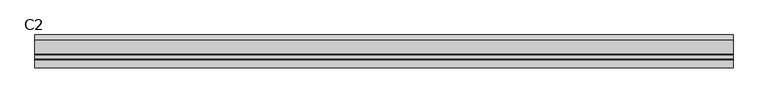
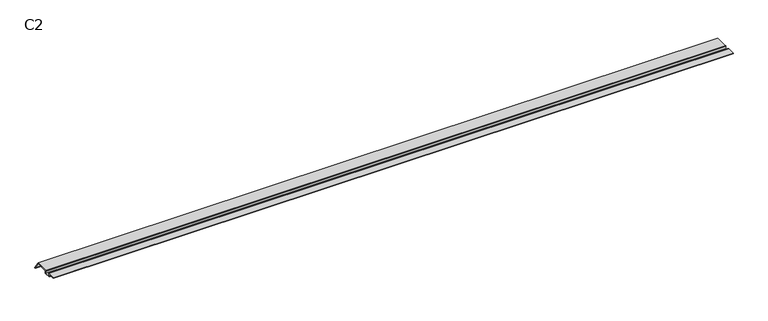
"""IFC4 building model written with IfcOpenShell, lengths in millimetres: proxy geometry, C2 profil cokolowy : C2."""

import ifcopenshell
import ifcopenshell.guid

model = None  # the IFC model being written
_history = None  # IfcOwnerHistory: only IFC2X3 demands one
_inside = {}  # id of a spatial element -> (the spatial element, [elements in it])
_under = {}  # id of a project, library or spatial element -> (it, [spatial elements below it])
_declared = {}  # id of a project -> (the project, [libraries it declares])
_typed = {}  # id of a type object -> (the type object, [elements of that type])
_made_of = {}  # id of a material, layer set ... -> (it, [elements and type objects made of it])


def new_model(schema):
    """Start an empty IFC model of exactly this schema.

    Asked for "IFC4X3", IfcOpenShell would pick the latest addendum, in which some entities
    have other attributes; the version numbers below select the first issue.
    IFC2X3 requires an IfcOwnerHistory on every rooted entity: one is made here for all.
    """
    global model, _history
    if schema == "IFC4X3":
        model = ifcopenshell.file(schema_version=(4, 3, 0, 0))
    else:
        model = ifcopenshell.file(schema=schema)
    _inside.clear()
    _under.clear()
    _declared.clear()
    _typed.clear()
    _made_of.clear()
    _history = None
    if model.schema == "IFC2X3":
        org = make("IfcOrganization", Name="unknown")
        user = make(
            "IfcPersonAndOrganization",
            ThePerson=make("IfcPerson", FamilyName="unknown"),
            TheOrganization=org,
        )
        app = make(
            "IfcApplication",
            ApplicationDeveloper=org,
            Version="unknown",
            ApplicationFullName="unknown",
            ApplicationIdentifier="unknown",
        )
        _history = make(
            "IfcOwnerHistory",
            OwningUser=user,
            OwningApplication=app,
            ChangeAction="ADDED",
            CreationDate=0,
        )
    return model


def make(cls, **values):
    """One entity of the class cls with the attributes given. An attribute that is None is left unset."""
    return model.create_entity(
        cls, **{name: value for name, value in values.items() if value is not None}
    )


def rooted(cls, **values):
    """An entity with a GlobalId (a new one), such as an element, a storey or a relation."""
    return make(cls, GlobalId=ifcopenshell.guid.new(), OwnerHistory=_history, **values)


def si_unit(unit_type, name, prefix=None):
    """IfcSIUnit, for example si_unit("LENGTHUNIT", "METRE", prefix="MILLI")."""
    return make("IfcSIUnit", UnitType=unit_type, Prefix=prefix, Name=name)


def assignment(units):
    """IfcUnitAssignment: the units of a project."""
    return None if units is None else make("IfcUnitAssignment", Units=units)


def point(xyz):
    """IfcCartesianPoint."""
    return None if xyz is None else make("IfcCartesianPoint", Coordinates=xyz)


def direction(xyz):
    """IfcDirection."""
    return None if xyz is None else make("IfcDirection", DirectionRatios=xyz)


def frame(location, z_axis=None, x_axis=None):
    """IfcAxis2Placement3D, a coordinate frame: its origin and axes. An axis left out is left unset."""
    return make(
        "IfcAxis2Placement3D",
        Location=point(location),
        Axis=direction(z_axis),
        RefDirection=direction(x_axis),
    )


def frame_2d(location, x_axis=None):
    """IfcAxis2Placement2D, a coordinate frame in the plane: its origin and x axis."""
    return make(
        "IfcAxis2Placement2D", Location=point(location), RefDirection=direction(x_axis)
    )


def origin():
    """The frame at (0, 0, 0) with its axes left unset."""
    return frame((0.0, 0.0, 0.0))


def place(relative_to, where):
    """IfcLocalPlacement: puts the frame where relative to a parent placement (None: the world)."""
    return make(
        "IfcLocalPlacement", PlacementRelTo=relative_to, RelativePlacement=where
    )


def context(
    kind, dimensions, precision=None, world=None, true_north=None, identifier=None
):
    """IfcGeometricRepresentationContext, for example the 3D "Model" context."""
    return make(
        "IfcGeometricRepresentationContext",
        ContextIdentifier=identifier,
        ContextType=kind,
        CoordinateSpaceDimension=dimensions,
        Precision=precision,
        WorldCoordinateSystem=world,
        TrueNorth=true_north,
    )


def project(units=None, contexts=None):
    """IfcProject with its units and contexts."""
    return rooted(
        "IfcProject",
        Name="project",
        RepresentationContexts=contexts,
        UnitsInContext=assignment(units),
    )


def spatial(cls, under=None, at=None, **own):
    """A site, building, storey or space (cls), placed at a placement, below another one or the project."""
    s = rooted(cls, ObjectPlacement=at, **own)
    if under is not None:
        _under.setdefault(under.id(), (under, []))[1].append(s)
    return s


def polyline(points):
    """IfcPolyline through the points."""
    return make("IfcPolyline", Points=[point(p) for p in points])


def circle_curve(where, radius):
    """IfcCircle in the frame where."""
    return make("IfcCircle", Position=where, Radius=radius)


def trimmed(basis, trim1, trim2, sense, master):
    """IfcTrimmedCurve: the piece of a basis curve between two trims."""
    return make(
        "IfcTrimmedCurve",
        BasisCurve=basis,
        Trim1=trim1,
        Trim2=trim2,
        SenseAgreement=sense,
        MasterRepresentation=master,
    )


def segment(curve, same_sense, transition):
    """IfcCompositeCurveSegment."""
    return make(
        "IfcCompositeCurveSegment",
        Transition=transition,
        SameSense=same_sense,
        ParentCurve=curve,
    )


def composite_curve(segments, self_intersect=None):
    """IfcCompositeCurve: segments joined end to end."""
    return make("IfcCompositeCurve", Segments=segments, SelfIntersect=self_intersect)


def outline(outer, holes=None, kind="AREA"):
    """IfcArbitraryClosedProfileDef: a profile drawn as a closed curve; with holes, ...WithVoids."""
    if holes is None:
        return make("IfcArbitraryClosedProfileDef", ProfileType=kind, OuterCurve=outer)
    return make(
        "IfcArbitraryProfileDefWithVoids",
        ProfileType=kind,
        OuterCurve=outer,
        InnerCurves=holes,
    )


def extrude(swept, where, along, depth):
    """IfcExtrudedAreaSolid: the profile swept, set in the frame where, extruded along a direction by depth."""
    return make(
        "IfcExtrudedAreaSolid",
        SweptArea=swept,
        Position=where,
        ExtrudedDirection=direction(along),
        Depth=depth,
    )


def shape(context_of_items, identifier, shape_type, items):
    """IfcShapeRepresentation: the items that make up one representation, for example the "Body"."""
    return make(
        "IfcShapeRepresentation",
        ContextOfItems=context_of_items,
        RepresentationIdentifier=identifier,
        RepresentationType=shape_type,
        Items=items,
    )


def source(mapping_origin, context_of_items, identifier, shape_type, items):
    """IfcRepresentationMap: a shape defined once, which mapped items show again and again."""
    return make(
        "IfcRepresentationMap",
        MappingOrigin=mapping_origin,
        MappedRepresentation=shape(context_of_items, identifier, shape_type, items),
    )


def transform(
    local_origin,
    x_axis=None,
    y_axis=None,
    z_axis=None,
    scale=None,
    scale2=None,
    scale3=None,
    uniform=True,
):
    """IfcCartesianTransformationOperator3D, or its non-uniform kind. x_axis, y_axis, z_axis: its Axis1, 2, 3."""
    if uniform:
        return make(
            "IfcCartesianTransformationOperator3D",
            Axis1=direction(x_axis),
            Axis2=direction(y_axis),
            LocalOrigin=point(local_origin),
            Scale=scale,
            Axis3=direction(z_axis),
        )
    return make(
        "IfcCartesianTransformationOperator3DnonUniform",
        Axis1=direction(x_axis),
        Axis2=direction(y_axis),
        LocalOrigin=point(local_origin),
        Scale=scale,
        Axis3=direction(z_axis),
        Scale2=scale2,
        Scale3=scale3,
    )


def mapped(mapping_source, mapping_target):
    """IfcMappedItem: shows the shape of a source again, moved by a transform."""
    return make(
        "IfcMappedItem", MappingSource=mapping_source, MappingTarget=mapping_target
    )


def made_of(thing, what):
    """Note that an element or type object is made of a material, layer set ...; save() writes the relation."""
    if what is not None:
        _made_of.setdefault(what.id(), (what, []))[1].append(thing)
    return thing


def element(
    cls,
    number,
    at=None,
    inside=None,
    cuts=None,
    type_object=None,
    material=None,
    context=None,
    identifier="Body",
    shape_type=None,
    held_by="IfcProductDefinitionShape",
    body=None,
    shapes=None,
    **own,
):
    """One element of the class cls, such as IfcWall. Its Tag is "e" and its number.

    at: its placement. inside: the storey or other place that contains it. cuts: it is an
    opening in that element (IfcRelVoidsElement). A single representation is given by context,
    identifier, shape_type and body (its items); several are given by shapes. held_by: the class
    of the entity that holds the representations. save() writes the other relations.
    """
    e = rooted(cls, Tag="e%d" % number, ObjectPlacement=at, **own)
    if body is not None:
        shapes = [shape(context, identifier, shape_type, body)]
    if shapes is not None:
        e.Representation = make(held_by, Representations=shapes)
    if inside is not None:
        _inside.setdefault(inside.id(), (inside, []))[1].append(e)
    if cuts is not None:
        rooted(
            "IfcRelVoidsElement", RelatingBuildingElement=cuts, RelatedOpeningElement=e
        )
    if type_object is not None:
        _typed.setdefault(type_object.id(), (type_object, []))[1].append(e)
    return made_of(e, material)


def aggregate(whole, parts):
    """IfcRelAggregates: a whole, such as a stair, and the parts it consists of."""
    return rooted("IfcRelAggregates", RelatingObject=whole, RelatedObjects=parts)


def save(model, path):
    """Write the relations noted so far, then the file.

    IfcRelAggregates (storeys below a building ...), IfcRelContainedInSpatialStructure (elements
    in a storey), IfcRelDefinesByType, IfcRelAssociatesMaterial and IfcRelDeclares: one each for
    every whole, place, type object, material and project.
    """
    for whole, parts in _under.values():
        aggregate(whole, parts)
    for where, things in _inside.values():
        rooted(
            "IfcRelContainedInSpatialStructure",
            RelatedElements=things,
            RelatingStructure=where,
        )
    for kind, things in _typed.values():
        rooted("IfcRelDefinesByType", RelatedObjects=things, RelatingType=kind)
    for what, things in _made_of.values():
        rooted("IfcRelAssociatesMaterial", RelatedObjects=things, RelatingMaterial=what)
    for by, libraries in _declared.values():
        rooted("IfcRelDeclares", RelatingContext=by, RelatedDefinitions=libraries)
    model.write(path)


def c2_53e763b1(model_context):
    return source(origin(), model_context, "Body", "SweptSolid", [
        extrude(outline(composite_curve([segment(polyline([(-62.6, 22.4417007), (-62.6, 16.8000012), (-49.2, 16.8000012), (-49.2, 22.4417007)]), True, "CONTINUOUS"), segment(trimmed(circle_curve(frame_2d((-48.9, 23.5000012)), 1.1), [point((-49.2, 22.4417007))], [point((-48.9, 24.6000012))], False, "CARTESIAN"), True, "CONTINUOUS"), segment(polyline([(-48.9, 24.6000012), (-14.2215416, 24.6000012), (0.0, 2.6407585), (0.0, 1.8218762), (-2.4884184, 1.8218762), (-2.4884184, 2.700191), (-1.6694319, 2.700191), (-14.9821643, 23.2000012), (-47.8, 23.2000012), (-47.8, 15.4000012), (-64.0, 15.4000012), (-64.0, 23.2000012), (-83.4, 23.2000012), (-83.4, 24.6000012), (-62.9, 24.6000012)]), True, "CONTINUOUS"), segment(trimmed(circle_curve(frame_2d((-62.9, 23.5000012)), 1.1), [point((-62.9, 24.6000012))], [point((-62.6, 22.4417007))], False, "CARTESIAN"), True, "CONTINUOUS")], self_intersect=False)), frame((0.0, 0.0, 0.0), z_axis=(1.0, 0.0, 0.0), x_axis=(0.0, 1.0, 0.0)), (0.0, 0.0, 1.0), 1780.0),
    ])


if __name__ == "__main__":
    model = new_model("IFC4")
    model_context = context("Model", 3, world=origin())
    ifc_project = project(units=[si_unit("LENGTHUNIT", "METRE", prefix="MILLI")], contexts=[model_context])
    site = spatial("IfcSite", under=ifc_project)
    building = spatial("IfcBuilding", under=site)
    placement = place(None, origin())
    c2_shape = c2_53e763b1(model_context)
    element("IfcBuildingElementProxy", 1, Name="C2 profil cokolowy : C2", ObjectType="C2 profil cokolowy : C2", at=placement, inside=building, context=model_context, shape_type="MappedRepresentation", body=[
        mapped(c2_shape, transform((0.0, 0.0, 0.0), x_axis=(1.0, 0.0, 0.0), y_axis=(0.0, 1.0, 0.0), z_axis=(0.0, 0.0, 1.0))),
    ])
    save(model, "model.ifc")
